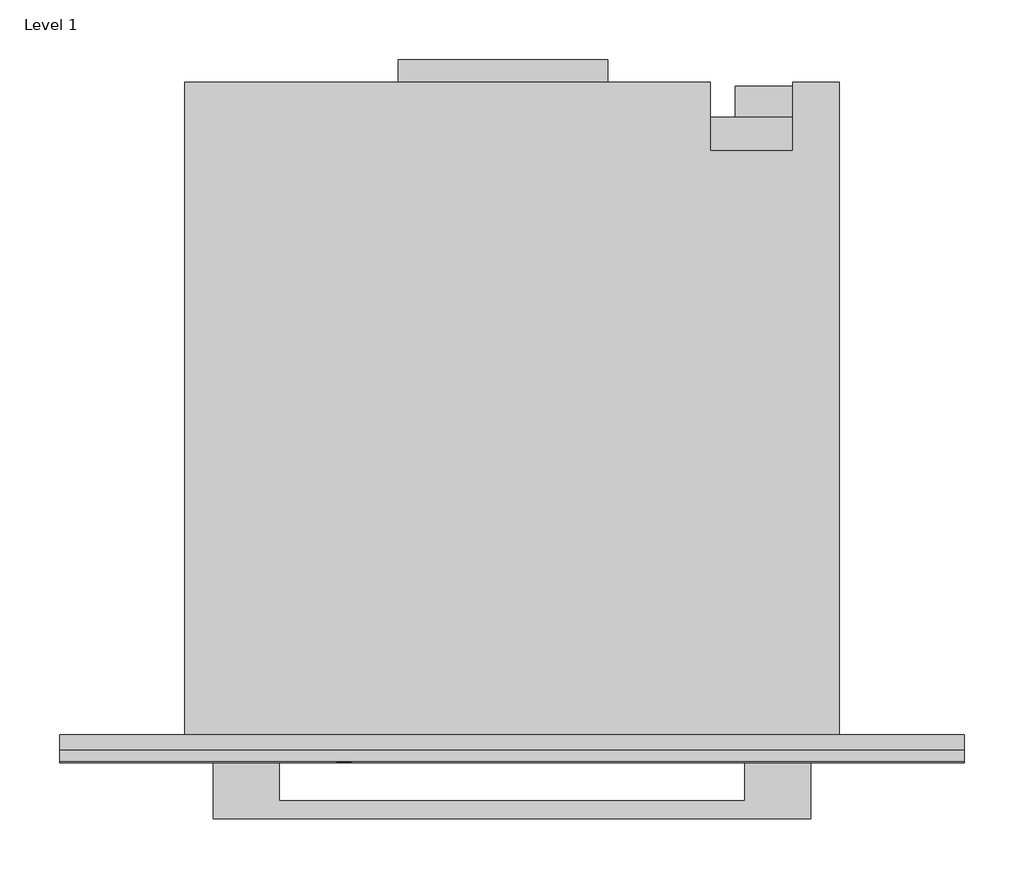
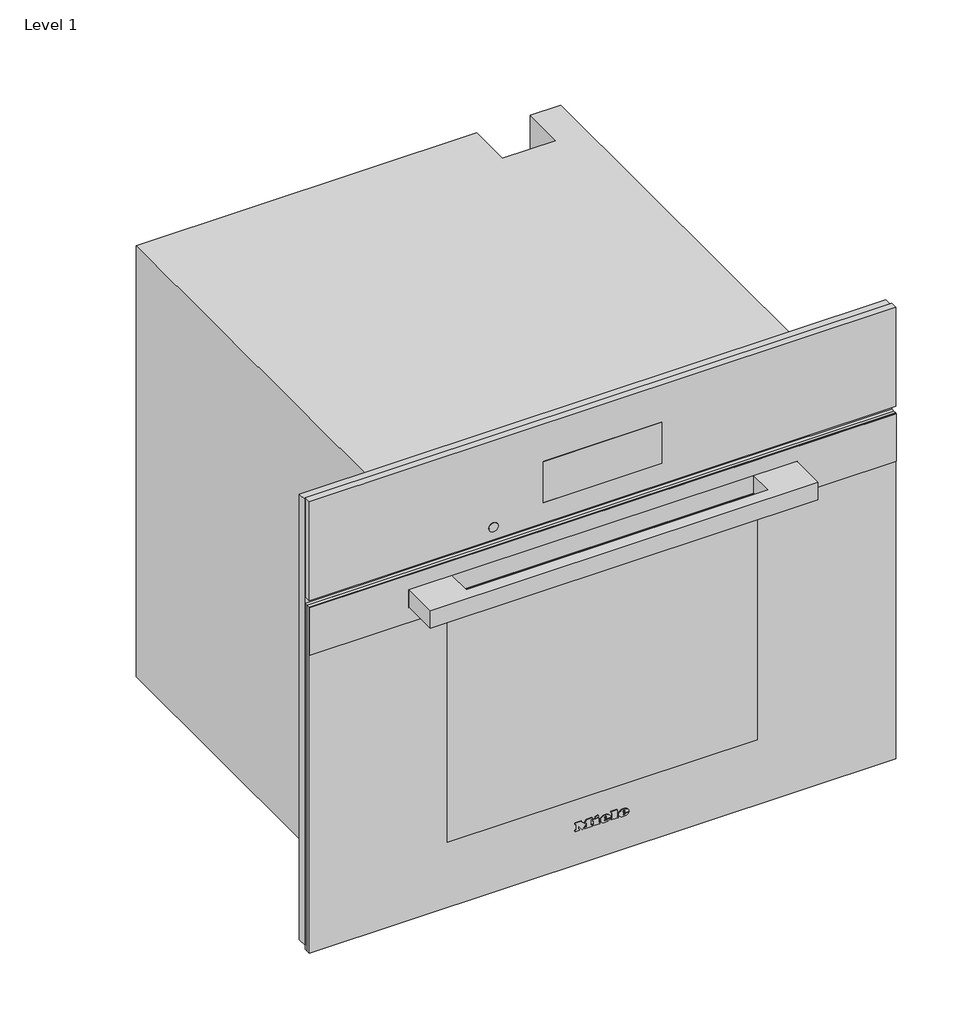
# One storey: 1 proxy.
"""IFC4 building model written with IfcOpenShell, lengths in millimetres."""

from ifc_helpers import new_model, si_unit, origin, place, context, project, spatial, transform, mapped, element, save
from components import specialty_equipment_2287f4bf

model = new_model("IFC4")

# Units and contexts
model_context = context("Model", 3, world=origin())
ifc_project = project(units=[si_unit("LENGTHUNIT", "METRE", prefix="MILLI")], contexts=[model_context])

# Site, building, storey
site = spatial("IfcSite", under=ifc_project)
building = spatial("IfcBuilding", under=site)
storey = spatial("IfcBuildingStorey", under=building, Name="Level 1", Elevation=0.0)

# Proxy
placement = place(None, origin())
specialty_equipment_shape = specialty_equipment_2287f4bf(model_context)
element("IfcBuildingElementProxy", 1, Name="11876350_USA_DGC7880_EDST-CLST : 23788043_USA_11876350_DGC7880_EDST-CLST", ObjectType="11876350_USA_DGC7880_EDST-CLST : 23788043_USA_11876350_DGC7880_EDST-CLST", at=placement, inside=storey, context=model_context, shape_type="MappedRepresentation", body=[
    mapped(specialty_equipment_shape, transform((0.0, 0.0, 0.0), x_axis=(1.0, 0.0, 0.0), y_axis=(0.0, 1.0, 0.0), z_axis=(0.0, 0.0, 1.0))),
])

save(model, "model.ifc")
